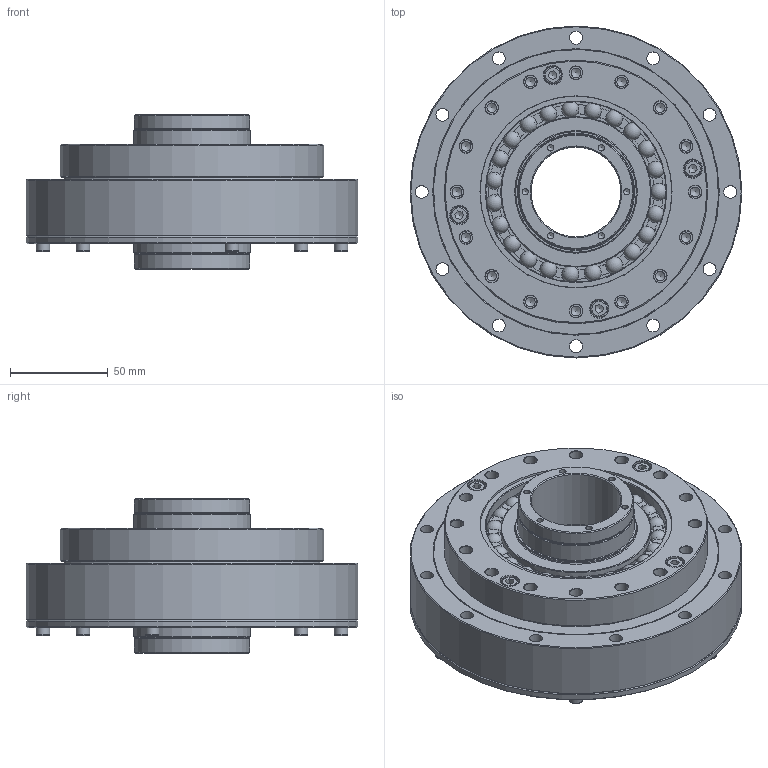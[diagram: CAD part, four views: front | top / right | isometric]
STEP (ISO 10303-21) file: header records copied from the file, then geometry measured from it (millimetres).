
FILE_DESCRIPTION(/* description */ (''),/* implementation_level */ '2;1');
FILE_NAME(/* name */ 'S:\TB00F\研發課二組\機密級\1.\X2\8A2D8A08\X0\\01-DT\DT-圖面\2.組合圖\\X2\6A21578B\X0\\DGH-PH\DGH-40-XXX-PH模型\DGH-40-XX-PH.stp',/* time_stamp */ '2024-07-10T17:02:42+08:00',/* author */ ('ted40524246.cheng'),/* organization */ (''),/* preprocessor_version */ 'ST-DEVELOPER v15.2',/* originating_system */ 'Autodesk Inventor 2014',/* authorisation */ '');
FILE_SCHEMA (('AUTOMOTIVE_DESIGN { 1 0 10303 214 3 1 1 }'));
Length unit declared in the file: centimetre
Products named in the file (1): AK0012N1
Bounding box: 170 x 170 x 79 mm (x, y, z)
Volume: 720195.3 mm3; surface area: 131917.4 mm2
Topology: 1 solids, 17 shells, 672 faces, 1641 edges, 1029 vertices
Faces by surface type: cylinder 227, plane 198, cone 150, torus 74, sphere 23
Full cylindrical faces by diameter (mm): 3.242 x18, 4 x6, 4.5 x6, 4.917 x16, 5 x4, 5.5 x4, 6.6 x40, 7 x6, 8.5 x4, 9.5 x4, 46 x2, 46.5 x1, 57 x1, 59 x2, 60 x3, 62 x1, 65 x1, 76.96 x1, 92.35 x1, 98.06 x1, 135 x1, 140 x1, 146 x1, 170 x2
Entity records: 17398 total; most frequent: CARTESIAN_POINT 3197, DIRECTION 3136, ORIENTED_EDGE 2362, AXIS2_PLACEMENT_3D 1454, EDGE_CURVE 1135, EDGE_LOOP 1072, VERTEX_POINT 851, CIRCLE 781
